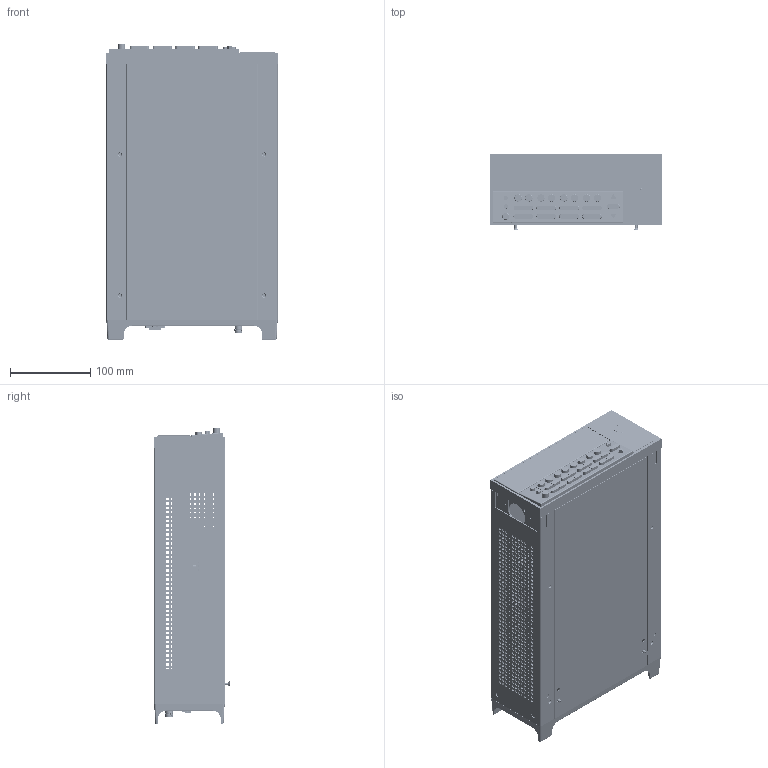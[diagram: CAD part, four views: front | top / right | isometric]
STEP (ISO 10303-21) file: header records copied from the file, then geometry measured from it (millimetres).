
FILE_DESCRIPTION((''),'2;1');
FILE_NAME('6517B_ASM','2015-09-08T',('jpeters'),('Keithley Instruments'),'CREO PARAMETRIC BY PTC INC, 2014440','CREO PARAMETRIC BY PTC INC, 2014440','');
FILE_SCHEMA(('CONFIG_CONTROL_DESIGN'));
Length unit declared in the file: inch
Products named in the file (45): 6517B-301; 6517B-301_ASM; 6517B-303; 6517B-304; 6517B-303_ASM; 6-32X1-4PFH; 6517B-302_ASM; 6-32KEPNUT; LF-20-1; CS-501; CS-1072-4; CS-762; 6517B-140_ASM; CS-713; CS-725; 7002-323-2; 6517B-130_ASM; BJ-18-0; BJ-18-2; CS-1304; 6517B-120_ASM; CS-995-NUTLESS; BJ-18-4; BJ-18-6; CS-823; CS-811; 6517B-100_ASM; 2602-358; 6517-318; 6517B-306_ASM; 6517B-310; 6517-311; 6517B-310_ASM; 6517B-311-040; 6517B-312; 6517B-311-MFG_ASM; 6517B-313; 6517B-313_ASM; 6517B-FRONT-PANEL_ASM; 2602-350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
Assembly tree (52 placements, depth 4):
  6517B_ASM
    6517B-302_ASM
      6517B-301_ASM
        6517B-301
      6517B-303_ASM
        6517B-303
        6517B-304
      6-32X1-4PFH  x2
    6-32KEPNUT
    LF-20-1
    6517B-140_ASM
      CS-501
      CS-1072-4
      CS-762
    CS-713  x2
    CS-725  x4
    6517B-130_ASM
      7002-323-2
    6517B-120_ASM
      BJ-18-0
      BJ-18-2
      CS-1304
    6517B-100_ASM
      CS-995-NUTLESS
      BJ-18-4
      BJ-18-0
      BJ-18-6
      CS-823
      CS-811
    6517B-FRONT-PANEL_ASM
      6517B-306_ASM
        2602-358
        6517-318
      6517B-310_ASM
        6517B-310
        6517-311
      6517B-311-MFG_ASM
        6517B-311-040
        6517B-312
      6517B-313_ASM
        6517B-313
    2602-350
    6517B-309
    6-32X3-16PPHSEM
    2001-372
    6-32X1-4PFH  x2
    CS-1305
Bounding box: 213.87 x 94.56 x 369.6 mm (x, y, z)
Volume: 605771.4 mm3; surface area: 721990.6 mm2
Topology: 41 solids, 44 shells, 13176 faces, 36745 edges, 24211 vertices
Faces by surface type: plane 11252, cylinder 1580, cone 134, torus 89, bspline 89, sphere 32
Entity records: 423757 total; most frequent: CARTESIAN_POINT 82255, ORIENTED_EDGE 72558, DIRECTION 64415, EDGE_CURVE 36279, VECTOR 32483, LINE 32483, VERTEX_POINT 23929, EDGE_LOOP 16372
